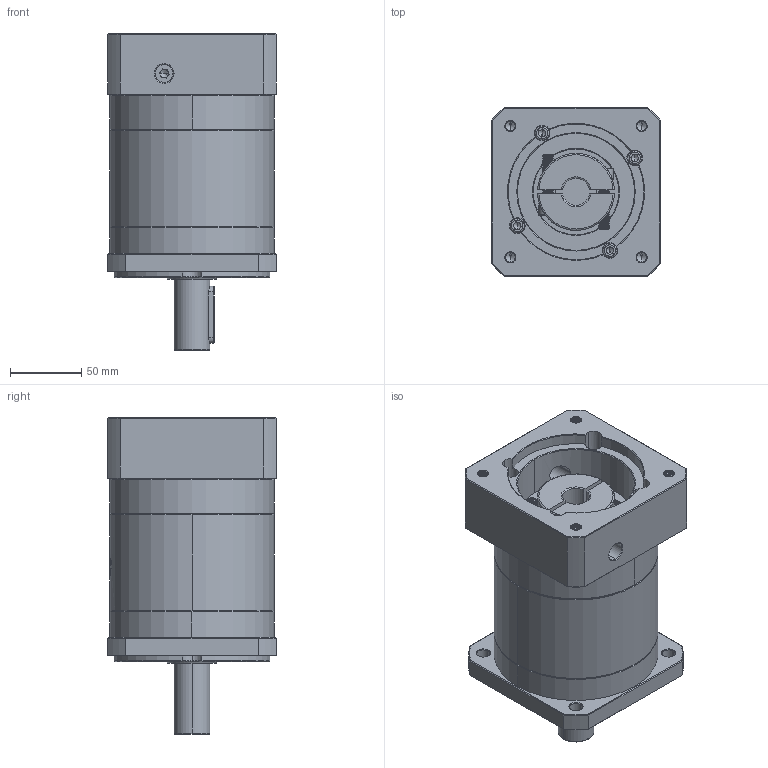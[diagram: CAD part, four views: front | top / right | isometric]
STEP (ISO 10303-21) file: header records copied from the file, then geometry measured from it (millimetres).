
FILE_DESCRIPTION (( 'STEP AP214' ), '1' );
FILE_NAME ('ZF120A-D25-L2-P2-19-95-130-M8.step', '2023-08-27T04:40:11', ( '' ), ( '' ), 'SwSTEP 2.0', 'SolidWorks 2016', '' );
FILE_SCHEMA (( 'AUTOMOTIVE_DESIGN' ));
Length unit declared in the file: millimetre
Products named in the file (1): ZF120A-D25-L2-P2-19-95-130-M8
Bounding box: 118 x 118 x 222 mm (x, y, z)
Volume: 1758194.4 mm3; surface area: 176632.9 mm2
Topology: 6 solids, 6 shells, 2226 faces, 5914 edges, 3789 vertices
Faces by surface type: plane 1034, cylinder 425, bspline 419, cone 328, torus 20
Entity records: 123031 total; most frequent: CARTESIAN_POINT 48657, ORIENTED_EDGE 11768, DIRECTION 8531, EDGE_CURVE 5884, VERTEX_POINT 3789, VECTOR 3099, LINE 3099, AXIS2_PLACEMENT_3D 2716
